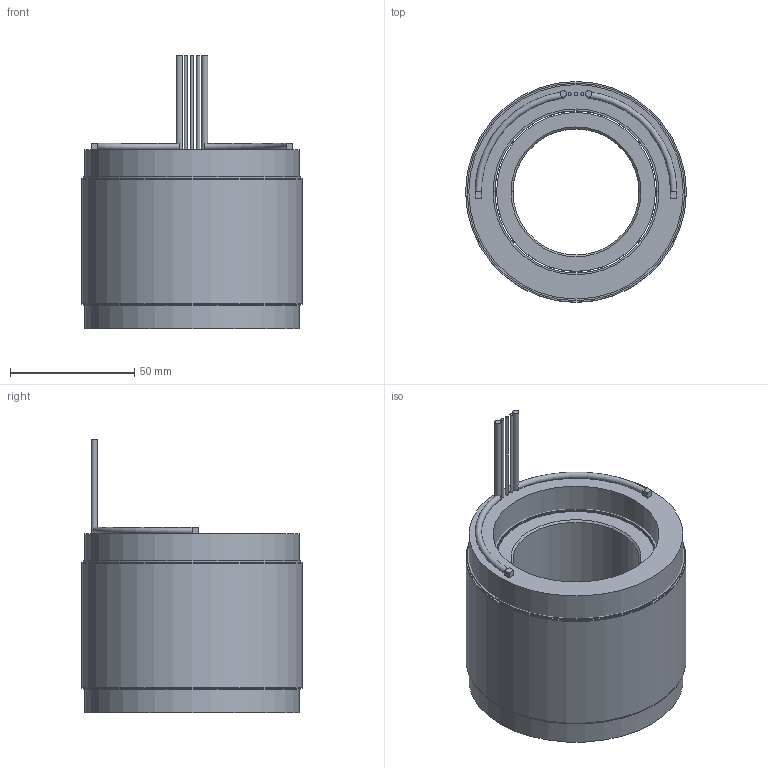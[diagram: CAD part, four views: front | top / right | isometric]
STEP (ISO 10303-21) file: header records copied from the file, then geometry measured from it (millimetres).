
FILE_DESCRIPTION (( 'STEP AP214' ), '1' );
FILE_NAME ('6100378-03.STEP', '2020-06-23T15:56:03', ( '' ), ( '' ), 'SwSTEP 2.0', 'SolidWorks 2016', '' );
FILE_SCHEMA (( 'AUTOMOTIVE_DESIGN' ));
Length unit declared in the file: inch
Products named in the file (10): 4250372-XX_4250372-03; 6100378-03; 4400100-00; 4150176-XX_4150176-03; comp4500552-XX(COIL)_comp4500552-03(COIL); 4450187-XX_4450187-03; 4500552-XX_4500552-03; 4600562-00
Assembly tree (10 placements, depth 4):
  6100378-03
    4500552-XX_4500552-03
      4450187-XX_4450187-03
        4450187-XX_4450187-03
        4400100-00
        4400100-00
        4600562-00  x2
      comp4500552-XX(COIL)_comp4500552-03(COIL)
    4250372-XX_4250372-03
      4150176-XX_4150176-03
Bounding box: 88.9 x 88.9 x 110.24 mm (x, y, z)
Volume: 379301.1 mm3; surface area: 115040.5 mm2
Topology: 11 solids, 11 shells, 58 faces, 91 edges, 60 vertices
Faces by surface type: plane 35, cylinder 19, torus 2, cone 2
Full cylindrical faces by diameter (mm): 1.27 x3, 2.54 x2, 50.8 x1, 64.008 x1, 65.278 x5, 66.801 x1, 86.36 x1, 87.63 x2, 88.9 x3
Entity records: 1612 total; most frequent: DIRECTION 244, CARTESIAN_POINT 190, ORIENTED_EDGE 128, AXIS2_PLACEMENT_3D 110, EDGE_LOOP 92, FACE_OUTER_BOUND 73, EDGE_CURVE 64, VERTEX_POINT 56
